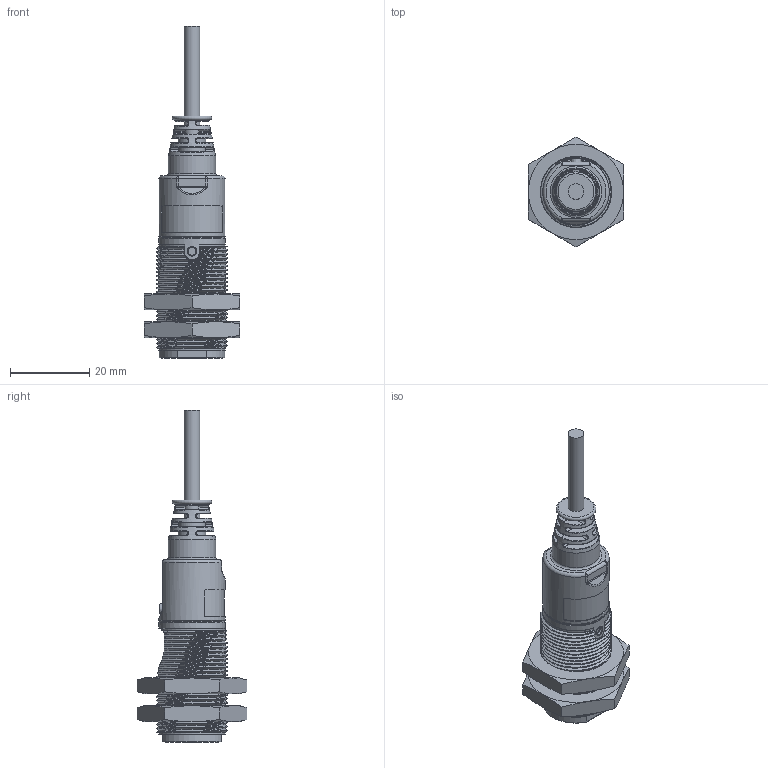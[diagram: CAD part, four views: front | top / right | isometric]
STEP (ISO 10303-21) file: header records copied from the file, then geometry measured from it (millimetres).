
FILE_DESCRIPTION(/* description */ (''),/* implementation_level */ '2;1');
FILE_NAME(/* name */ '3DCAD_BR328.stp',/* time_stamp */ '2013-11-20T08:28:32+01:00',/* author */ (''),/* organization */ (''),/* preprocessor_version */ 'ST-DEVELOPER v15',/* originating_system */ 'SIEMENS PLM Software NX 8.5',/* authorisation */ '');
FILE_SCHEMA (('AUTOMOTIVE_DESIGN { 1 0 10303 214 3 1 1 1 }'));
Products named in the file (1): 005044_00.0
Bounding box: 24 x 27.71 x 83.7 mm (x, y, z)
Volume: 13766.8 mm3; surface area: 5927.4 mm2
Topology: 1 solids, 3 shells, 482 faces, 1188 edges, 728 vertices
Faces by surface type: bspline 165, cylinder 143, plane 112, cone 39, torus 17, sphere 6
Full cylindrical faces by diameter (mm): 2.2 x1, 4 x2, 12 x1, 16.65 x1, 16.7 x1
Entity records: 85362 total; most frequent: CARTESIAN_POINT 73428, ORIENTED_EDGE 2294, DIRECTION 1626, EDGE_CURVE 1147, VERTEX_POINT 715, AXIS2_PLACEMENT_3D 680, EDGE_LOOP 525, B_SPLINE_CURVE_WITH_KNOTS 519
